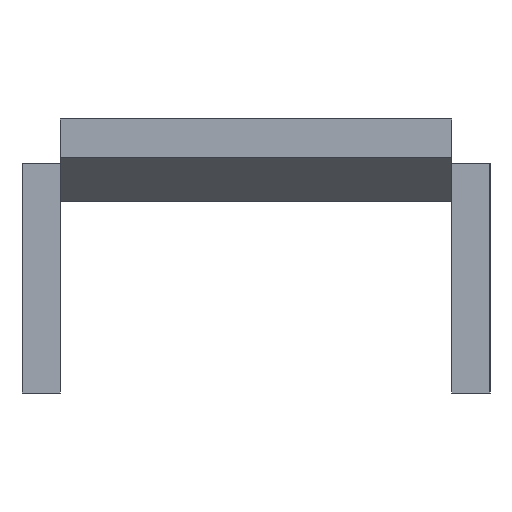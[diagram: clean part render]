
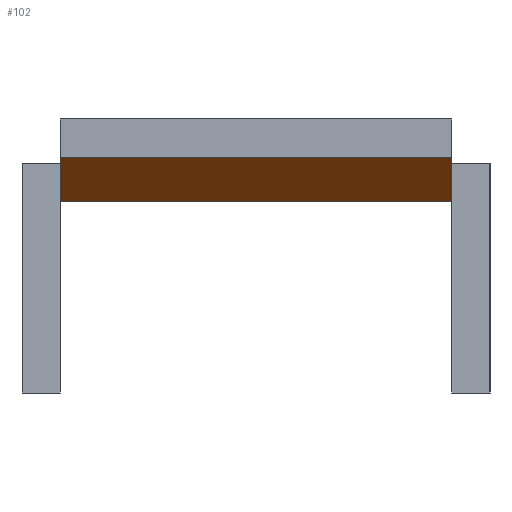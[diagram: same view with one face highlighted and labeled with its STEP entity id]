
A CAD part, left-side view. The second image highlights one B-rep face of the part: STEP entity #102.
In plain terms, the highlighted planar face has unit normal (-0.5, 0, -0.866).
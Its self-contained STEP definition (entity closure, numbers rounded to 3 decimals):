
#102 = ADVANCED_FACE( '', ( #206 ), #207, .F. );
#206 = FACE_OUTER_BOUND( '', #303, .T. );
#207 = PLANE( '', #304 );
#303 = EDGE_LOOP( '', ( #541, #542, #543, #544 ) );
#304 = AXIS2_PLACEMENT_3D( '', #545, #546, #547 );
#541 = ORIENTED_EDGE( '', *, *, #665, .T. );
#542 = ORIENTED_EDGE( '', *, *, #586, .T. );
#543 = ORIENTED_EDGE( '', *, *, #645, .F. );
#544 = ORIENTED_EDGE( '', *, *, #606, .F. );
#545 = CARTESIAN_POINT( '', ( -173.537, 9.22, -4.309 ) );
#546 = DIRECTION( '', ( 0.5, 0., 0.866 ) );
#547 = DIRECTION( '', ( 0.866, 0., -0.5 ) );
#586 = EDGE_CURVE( '', #700, #697, #701, .T. );
#606 = EDGE_CURVE( '', #732, #724, #734, .T. );
#645 = EDGE_CURVE( '', #724, #697, #791, .T. );
#665 = EDGE_CURVE( '', #732, #700, #813, .T. );
#697 = VERTEX_POINT( '', #857 );
#700 = VERTEX_POINT( '', #861 );
#701 = LINE( '', #862, #863 );
#724 = VERTEX_POINT( '', #897 );
#732 = VERTEX_POINT( '', #909 );
#734 = LINE( '', #912, #913 );
#791 = LINE( '', #998, #999 );
#813 = LINE( '', #1028, #1029 );
#857 = CARTESIAN_POINT( '', ( -177.536, -10.22, -2. ) );
#861 = CARTESIAN_POINT( '', ( -173.537, -10.22, -4.309 ) );
#862 = CARTESIAN_POINT( '', ( -173.537, -10.22, -4.309 ) );
#863 = VECTOR( '', #1048, 1000. );
#897 = CARTESIAN_POINT( '', ( -177.536, 10.22, -2. ) );
#909 = CARTESIAN_POINT( '', ( -173.537, 10.22, -4.309 ) );
#912 = CARTESIAN_POINT( '', ( -173.537, 10.22, -4.309 ) );
#913 = VECTOR( '', #1065, 1000. );
#998 = CARTESIAN_POINT( '', ( -177.536, 9.22, -2. ) );
#999 = VECTOR( '', #1097, 1000. );
#1028 = CARTESIAN_POINT( '', ( -173.537, 9.22, -4.309 ) );
#1029 = VECTOR( '', #1111, 1000. );
#1048 = DIRECTION( '', ( -0.866, 0., 0.5 ) );
#1065 = DIRECTION( '', ( -0.866, 0., 0.5 ) );
#1097 = DIRECTION( '', ( 0., -1., 0. ) );
#1111 = DIRECTION( '', ( 0., -1., 0. ) );
